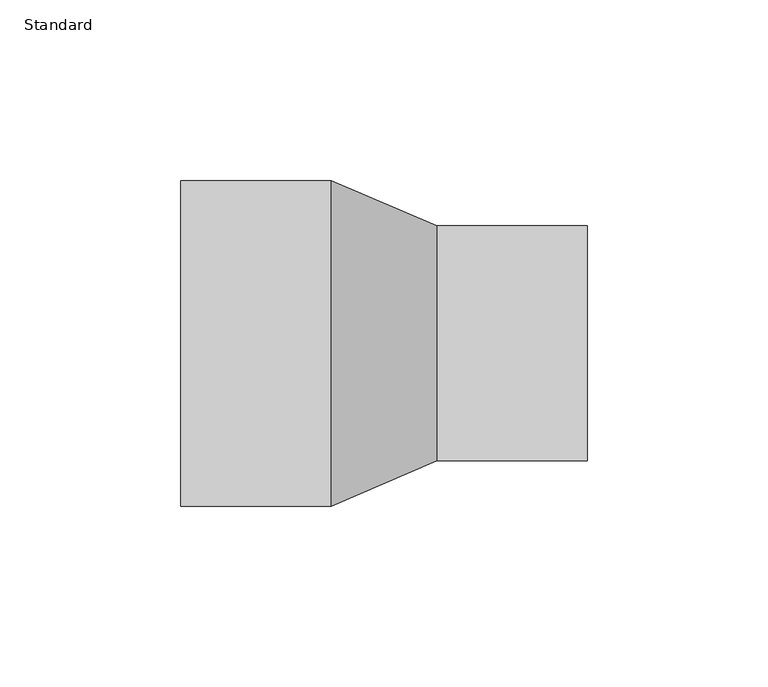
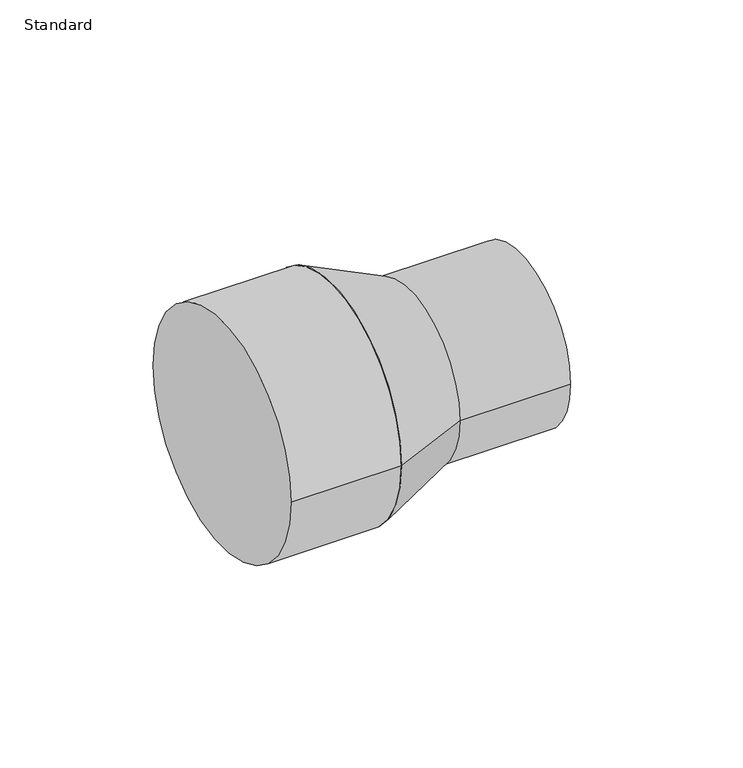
"""IFC4 building model written with IfcOpenShell, lengths in millimetres: pipe fitting geometry, Réduction PVC-C Pression PN16 : Standard."""

from ifc_helpers import new_model, si_unit, point, frame, origin, origin_2d, place, context, project, spatial, polyline, circle_curve, trimmed, segment, composite_curve, outline, extrude, source, transform, mapped, element, save
from ifc_brep_helpers import plane_surface, revolved_surface, advanced_brep


def standard_10568c51(model_context):
    return source(origin(), model_context, "Body", "SolidModel", [
        advanced_brep(
        [(14.5833333, -32.5, 0.0), (14.5833333, 32.5, 0.0), (-14.5833333, -45.0, 0.0), (-14.5833333, 45.0, 0.0)],
        [
            (0, 1, circle_curve(frame((14.5833333, 0.0, 0.0), z_axis=(1.0, 0.0, 0.0), x_axis=(0.0, -1.0, 0.0)), 32.5)),
            (1, 0, circle_curve(frame((14.5833333, 0.0, 0.0), z_axis=(1.0, 0.0, 0.0), x_axis=(0.0, 1.0, 0.0)), 32.5)),
            (2, 3, circle_curve(frame((-14.5833333, 0.0, 0.0), z_axis=(-1.0, 0.0, 0.0), x_axis=(0.0, 1.0, 0.0)), 45.0)),
            (3, 2, circle_curve(frame((-14.5833333, 0.0, 0.0), z_axis=(-1.0, 0.0, 0.0), x_axis=(0.0, -1.0, 0.0)), 45.0)),
            (3, 1),
            (0, 2),
        ],
        [
            plane_surface(frame((14.5833333, 0.0, 0.0), z_axis=(1.0, 0.0, 0.0), x_axis=(0.0, 0.0, -1.0))),
            plane_surface(frame((-14.5833333, 0.0, 0.0), z_axis=(-1.0, 0.0, 0.0), x_axis=(0.0, 0.0, -1.0))),
            revolved_surface(polyline([(14.583333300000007, -32.50000002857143, 0.0), (-14.583333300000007, -45.0, 0.0)]), (90.4166667, 0.0, 0.0), (-1.0, 0.0, 0.0)),
            revolved_surface(polyline([(14.583333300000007, 32.50000002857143, 0.0), (-14.583333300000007, 45.0, 0.0)]), (90.4166667, 0.0, 0.0), (-1.0, 0.0, 0.0)),
        ],
        [
            (0, [[1, 2]]),
            (1, [[3, 4]]),
            (2, [[-4, 5, -1, 6]]),
            (3, [[-3, -6, -2, -5]]),
        ],
    ),
        extrude(outline(composite_curve([segment(trimmed(circle_curve(origin_2d(), 32.5), [point((-32.5, 0.0))], [point((32.5, 0.0))], False, "CARTESIAN"), True, "CONTINUOUS"), segment(trimmed(circle_curve(origin_2d(), 32.5), [point((32.5, 0.0))], [point((-32.5, 0.0))], False, "CARTESIAN"), True, "CONTINUOUS")], self_intersect=False)), frame((14.5833333, 0.0, 0.0), z_axis=(1.0, 0.0, 0.0), x_axis=(0.0, 1.0, 0.0)), (0.0, 0.0, 1.0), 41.6666667),
        extrude(outline(composite_curve([segment(trimmed(circle_curve(origin_2d(), 45.0), [point((-45.0, 0.0))], [point((45.0, 0.0))], False, "CARTESIAN"), True, "CONTINUOUS"), segment(trimmed(circle_curve(origin_2d(), 45.0), [point((45.0, 0.0))], [point((-45.0, 0.0))], False, "CARTESIAN"), True, "CONTINUOUS")], self_intersect=False)), frame((-56.25, 0.0, 0.0), z_axis=(1.0, 0.0, 0.0), x_axis=(0.0, 1.0, 0.0)), (0.0, 0.0, 1.0), 41.6666667),
    ])


if __name__ == "__main__":
    model = new_model("IFC4")
    model_context = context("Model", 3, world=origin())
    ifc_project = project(units=[si_unit("LENGTHUNIT", "METRE", prefix="MILLI")], contexts=[model_context])
    site = spatial("IfcSite", under=ifc_project)
    building = spatial("IfcBuilding", under=site)
    placement = place(None, origin())
    standard_shape = standard_10568c51(model_context)
    element("IfcPipeFitting", 1, ObjectType="Réduction PVC-C Pression PN16 : Standard", at=placement, inside=building, context=model_context, shape_type="MappedRepresentation", body=[
        mapped(standard_shape, transform((0.0, 0.0, 0.0), x_axis=(1.0, 0.0, 0.0), y_axis=(0.0, 1.0, 0.0), z_axis=(0.0, 0.0, 1.0))),
    ])
    save(model, "model.ifc")
